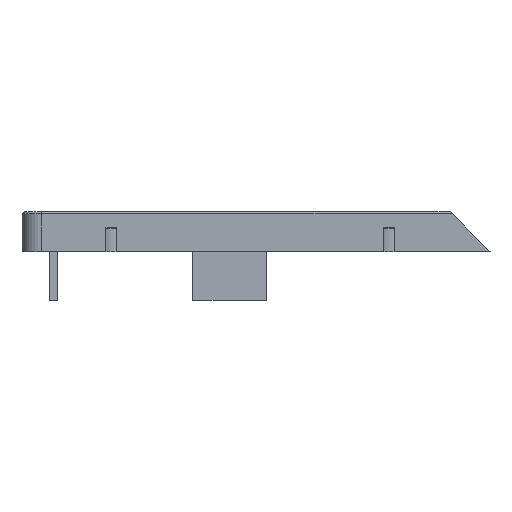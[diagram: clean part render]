
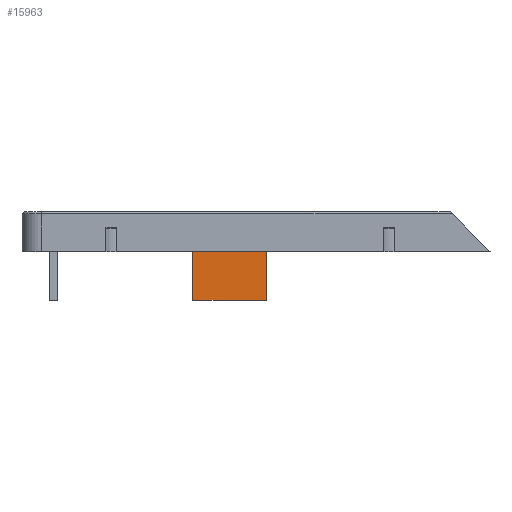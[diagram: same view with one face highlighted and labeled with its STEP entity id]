
A CAD part, left-side view. The second image highlights one B-rep face of the part: STEP entity #15963.
In plain terms, the highlighted planar face has unit normal (-1, 0, 0).
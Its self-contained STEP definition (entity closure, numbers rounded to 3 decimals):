
#1095 = PLANE('',#1096);
#1096 = AXIS2_PLACEMENT_3D('',#1097,#1098,#1099);
#1097 = CARTESIAN_POINT('',(-106.8,-192.95,21.));
#1098 = DIRECTION('',(0.,0.,1.));
#1099 = DIRECTION('',(1.,0.,0.));
#3461 = VERTEX_POINT('',#3462);
#3462 = CARTESIAN_POINT('',(-99.5,11.85,21.));
#3476 = PLANE('',#3477);
#3477 = AXIS2_PLACEMENT_3D('',#3478,#3479,#3480);
#3478 = CARTESIAN_POINT('',(-99.5,11.85,3.311));
#3479 = DIRECTION('',(0.,1.,0.));
#3480 = DIRECTION('',(0.,0.,1.));
#3488 = EDGE_CURVE('',#3461,#3489,#3491,.T.);
#3489 = VERTEX_POINT('',#3490);
#3490 = CARTESIAN_POINT('',(-99.5,29.85,21.));
#3491 = SURFACE_CURVE('',#3492,(#3496,#3503),.PCURVE_S1.);
#3492 = LINE('',#3493,#3494);
#3493 = CARTESIAN_POINT('',(-99.5,-90.55,21.));
#3494 = VECTOR('',#3495,1.);
#3495 = DIRECTION('',(0.,1.,0.));
#3496 = PCURVE('',#1095,#3497);
#3497 = DEFINITIONAL_REPRESENTATION('',(#3498),#3502);
#3498 = LINE('',#3499,#3500);
#3499 = CARTESIAN_POINT('',(7.3,102.4));
#3500 = VECTOR('',#3501,1.);
#3501 = DIRECTION('',(0.,1.));
#3502 = ( GEOMETRIC_REPRESENTATION_CONTEXT(2) 
PARAMETRIC_REPRESENTATION_CONTEXT() REPRESENTATION_CONTEXT('2D SPACE',''
  ) );
#3503 = PCURVE('',#3504,#3509);
#3504 = PLANE('',#3505);
#3505 = AXIS2_PLACEMENT_3D('',#3506,#3507,#3508);
#3506 = CARTESIAN_POINT('',(-99.5,11.85,3.311));
#3507 = DIRECTION('',(1.,0.,0.));
#3508 = DIRECTION('',(0.,0.,1.));
#3509 = DEFINITIONAL_REPRESENTATION('',(#3510),#3514);
#3510 = LINE('',#3511,#3512);
#3511 = CARTESIAN_POINT('',(17.689,102.4));
#3512 = VECTOR('',#3513,1.);
#3513 = DIRECTION('',(0.,-1.));
#3514 = ( GEOMETRIC_REPRESENTATION_CONTEXT(2) 
PARAMETRIC_REPRESENTATION_CONTEXT() REPRESENTATION_CONTEXT('2D SPACE',''
  ) );
#3532 = PLANE('',#3533);
#3533 = AXIS2_PLACEMENT_3D('',#3534,#3535,#3536);
#3534 = CARTESIAN_POINT('',(-99.5,29.85,3.311));
#3535 = DIRECTION('',(0.,1.,0.));
#3536 = DIRECTION('',(0.,0.,1.));
#15866 = VERTEX_POINT('',#15867);
#15867 = CARTESIAN_POINT('',(-99.5,11.85,3.311));
#15881 = PLANE('',#15882);
#15882 = AXIS2_PLACEMENT_3D('',#15883,#15884,#15885);
#15883 = CARTESIAN_POINT('',(-99.5,11.85,3.311));
#15884 = DIRECTION('',(0.,0.,1.));
#15885 = DIRECTION('',(1.,0.,0.));
#15893 = EDGE_CURVE('',#15866,#3461,#15894,.T.);
#15894 = SURFACE_CURVE('',#15895,(#15899,#15906),.PCURVE_S1.);
#15895 = LINE('',#15896,#15897);
#15896 = CARTESIAN_POINT('',(-99.5,11.85,3.311));
#15897 = VECTOR('',#15898,1.);
#15898 = DIRECTION('',(0.,0.,1.));
#15899 = PCURVE('',#3476,#15900);
#15900 = DEFINITIONAL_REPRESENTATION('',(#15901),#15905);
#15901 = LINE('',#15902,#15903);
#15902 = CARTESIAN_POINT('',(0.,0.));
#15903 = VECTOR('',#15904,1.);
#15904 = DIRECTION('',(1.,0.));
#15905 = ( GEOMETRIC_REPRESENTATION_CONTEXT(2) 
PARAMETRIC_REPRESENTATION_CONTEXT() REPRESENTATION_CONTEXT('2D SPACE',''
  ) );
#15906 = PCURVE('',#3504,#15907);
#15907 = DEFINITIONAL_REPRESENTATION('',(#15908),#15912);
#15908 = LINE('',#15909,#15910);
#15909 = CARTESIAN_POINT('',(0.,0.));
#15910 = VECTOR('',#15911,1.);
#15911 = DIRECTION('',(1.,0.));
#15912 = ( GEOMETRIC_REPRESENTATION_CONTEXT(2) 
PARAMETRIC_REPRESENTATION_CONTEXT() REPRESENTATION_CONTEXT('2D SPACE',''
  ) );
#15963 = ADVANCED_FACE('',(#15964),#3504,.F.);
#15964 = FACE_BOUND('',#15965,.F.);
#15965 = EDGE_LOOP('',(#15966,#15967,#15990,#16011));
#15966 = ORIENTED_EDGE('',*,*,#15893,.F.);
#15967 = ORIENTED_EDGE('',*,*,#15968,.T.);
#15968 = EDGE_CURVE('',#15866,#15969,#15971,.T.);
#15969 = VERTEX_POINT('',#15970);
#15970 = CARTESIAN_POINT('',(-99.5,29.85,3.311));
#15971 = SURFACE_CURVE('',#15972,(#15976,#15983),.PCURVE_S1.);
#15972 = LINE('',#15973,#15974);
#15973 = CARTESIAN_POINT('',(-99.5,11.85,3.311));
#15974 = VECTOR('',#15975,1.);
#15975 = DIRECTION('',(0.,1.,0.));
#15976 = PCURVE('',#3504,#15977);
#15977 = DEFINITIONAL_REPRESENTATION('',(#15978),#15982);
#15978 = LINE('',#15979,#15980);
#15979 = CARTESIAN_POINT('',(0.,0.));
#15980 = VECTOR('',#15981,1.);
#15981 = DIRECTION('',(0.,-1.));
#15982 = ( GEOMETRIC_REPRESENTATION_CONTEXT(2) 
PARAMETRIC_REPRESENTATION_CONTEXT() REPRESENTATION_CONTEXT('2D SPACE',''
  ) );
#15983 = PCURVE('',#15881,#15984);
#15984 = DEFINITIONAL_REPRESENTATION('',(#15985),#15989);
#15985 = LINE('',#15986,#15987);
#15986 = CARTESIAN_POINT('',(0.,0.));
#15987 = VECTOR('',#15988,1.);
#15988 = DIRECTION('',(0.,1.));
#15989 = ( GEOMETRIC_REPRESENTATION_CONTEXT(2) 
PARAMETRIC_REPRESENTATION_CONTEXT() REPRESENTATION_CONTEXT('2D SPACE',''
  ) );
#15990 = ORIENTED_EDGE('',*,*,#15991,.T.);
#15991 = EDGE_CURVE('',#15969,#3489,#15992,.T.);
#15992 = SURFACE_CURVE('',#15993,(#15997,#16004),.PCURVE_S1.);
#15993 = LINE('',#15994,#15995);
#15994 = CARTESIAN_POINT('',(-99.5,29.85,3.311));
#15995 = VECTOR('',#15996,1.);
#15996 = DIRECTION('',(0.,0.,1.));
#15997 = PCURVE('',#3504,#15998);
#15998 = DEFINITIONAL_REPRESENTATION('',(#15999),#16003);
#15999 = LINE('',#16000,#16001);
#16000 = CARTESIAN_POINT('',(0.,-18.));
#16001 = VECTOR('',#16002,1.);
#16002 = DIRECTION('',(1.,0.));
#16003 = ( GEOMETRIC_REPRESENTATION_CONTEXT(2) 
PARAMETRIC_REPRESENTATION_CONTEXT() REPRESENTATION_CONTEXT('2D SPACE',''
  ) );
#16004 = PCURVE('',#3532,#16005);
#16005 = DEFINITIONAL_REPRESENTATION('',(#16006),#16010);
#16006 = LINE('',#16007,#16008);
#16007 = CARTESIAN_POINT('',(0.,0.));
#16008 = VECTOR('',#16009,1.);
#16009 = DIRECTION('',(1.,0.));
#16010 = ( GEOMETRIC_REPRESENTATION_CONTEXT(2) 
PARAMETRIC_REPRESENTATION_CONTEXT() REPRESENTATION_CONTEXT('2D SPACE',''
  ) );
#16011 = ORIENTED_EDGE('',*,*,#3488,.F.);
